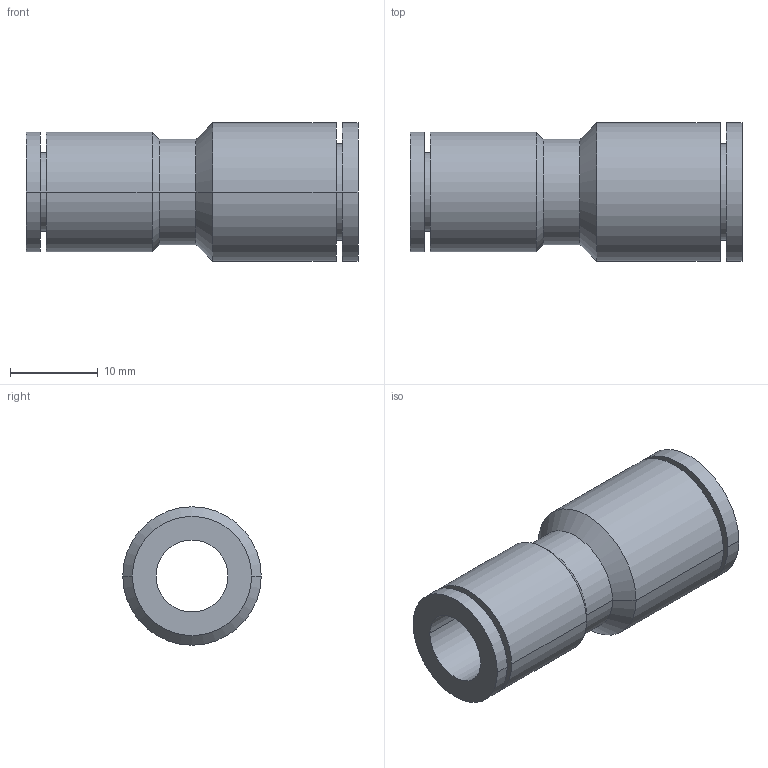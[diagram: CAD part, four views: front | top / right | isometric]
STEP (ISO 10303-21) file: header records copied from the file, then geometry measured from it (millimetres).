
FILE_DESCRIPTION((''),'2;1');
FILE_NAME('TKC-PG8-10','2025-10-29T14:16:52',('EMC05279'),(''),'CREO PARAMETRIC BY PTC INC, 2019010','CREO PARAMETRIC BY PTC INC, 2019010','');
FILE_SCHEMA(('CONFIG_CONTROL_DESIGN'));
Length unit declared in the file: millimetre
Products named in the file (1): TKC-PG8-10
Bounding box: 37.9 x 15.8 x 15.8 mm (x, y, z)
Volume: 3660.5 mm3; surface area: 3409.5 mm2
Topology: 1 solids, 1 shells, 29 faces, 58 edges, 36 vertices
Faces by surface type: cylinder 18, plane 7, cone 4
Entity records: 806 total; most frequent: DIRECTION 152, CARTESIAN_POINT 123, ORIENTED_EDGE 116, AXIS2_PLACEMENT_3D 65, EDGE_CURVE 58, VERTEX_POINT 36, EDGE_LOOP 36, CIRCLE 36
